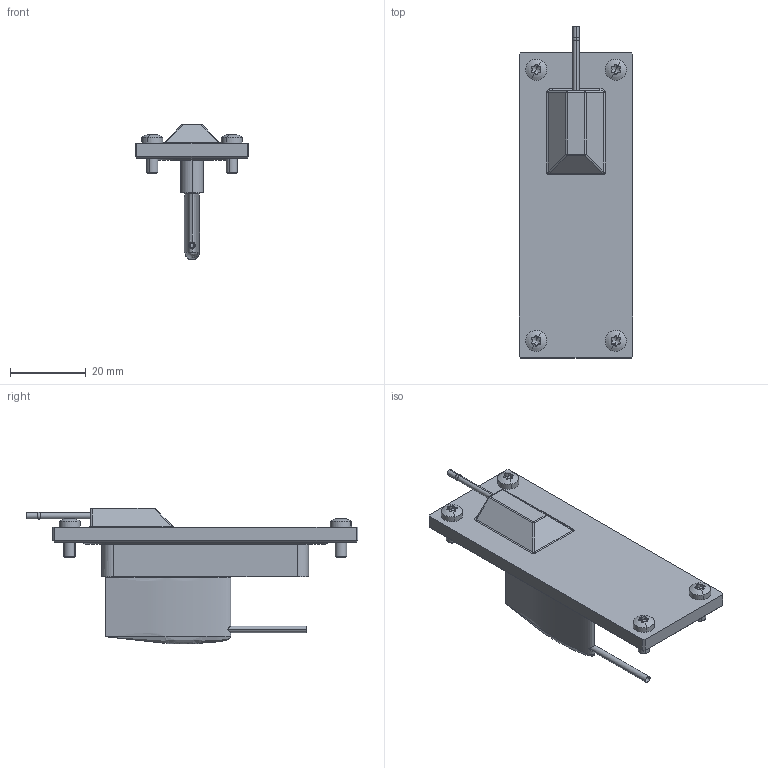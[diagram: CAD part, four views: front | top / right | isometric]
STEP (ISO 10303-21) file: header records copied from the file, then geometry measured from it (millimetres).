
FILE_DESCRIPTION(('CATIA V5 STEP Exchange','CAx-IF Rec.Pracs.--- Model Styling and Organization---1.5--- 2016-08-15','CAx-IF Rec.Pracs.---Supplemental Geometry---1.0---2011-11-01','CAx-IF Rec.Pracs.--- Composite Materials ---1.1---2010-07-15'),'2;1');
FILE_NAME('W:\8-25-003 RENOVATION DEBITMETRE PHI100 A S3\CATIA\Pré-étude\8-25003-Renovation debitmetrie S3MA\S3MA-8-25003-2000--_ASM_PEIGNE_DEBITMETRE_PHI_100.stp','2026-02-06T12:54:15+00:00',('none'),('none'),'CATIA Version 5-6 Release 2020 SP6 HF13','CATIA V5 STEP AP214 v2','none');
FILE_SCHEMA(('AUTOMOTIVE_DESIGN { 1 0 10303 214 1 1 1 1 }'));
Length unit declared in the file: millimetre
Products named in the file (6): S3MA-8-25003-2000--_ASM_PEIGNE_DEBITMETRE_PHI_100; S3MA-8-25003-2001--_PEIGNE_DEBIMETRE_PHI_100; S3MA-8-25003-2002--_PITOT_PEIGNE_DEBITMETRIE; S3MA-8-25003-2003--_SCANIVALVE_TUBN_063; QUIN-8-25003----q--_JOINT_TORIQUE; QUIN-8-25003----r--_VIS_BTC_M3X8
Assembly tree (8 placements, depth 2):
  S3MA-8-25003-2000--_ASM_PEIGNE_DEBITMETRE_PHI_100
    S3MA-8-25003-2001--_PEIGNE_DEBIMETRE_PHI_100
    S3MA-8-25003-2002--_PITOT_PEIGNE_DEBITMETRIE
    S3MA-8-25003-2003--_SCANIVALVE_TUBN_063
    QUIN-8-25003----q--_JOINT_TORIQUE
    QUIN-8-25003----r--_VIS_BTC_M3X8  x4
Bounding box: 30 x 87.5 x 35.75 mm (x, y, z)
Volume: 14999.5 mm3; surface area: 11137.5 mm2
Topology: 8 solids, 8 shells, 335 faces, 764 edges, 441 vertices
Faces by surface type: cylinder 152, plane 87, torus 37, cone 36, sphere 14, bspline 6, extrusion 2, revolution 1
Entity records: 9879 total; most frequent: CARTESIAN_POINT 5195, ORIENTED_EDGE 986, DIRECTION 793, EDGE_CURVE 493, AXIS2_PLACEMENT_3D 406, VERTEX_POINT 282, EDGE_LOOP 243, CIRCLE 233
